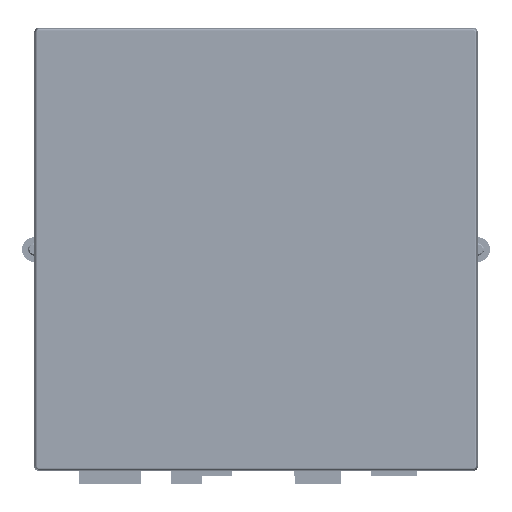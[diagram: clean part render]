
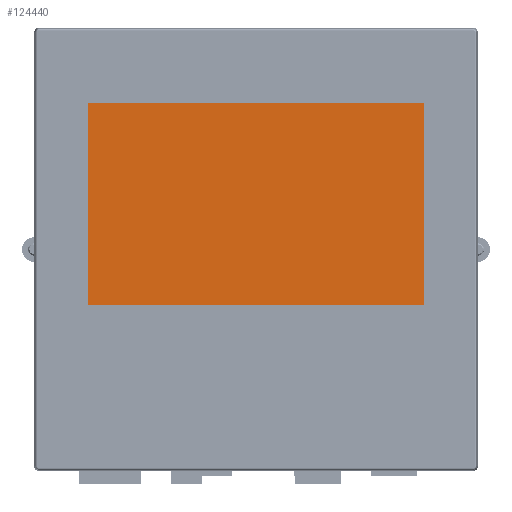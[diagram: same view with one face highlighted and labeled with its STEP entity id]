
A CAD part, top view. The second image highlights one B-rep face of the part: STEP entity #124440.
In plain terms, the highlighted planar face has unit normal (0, 0, 1).
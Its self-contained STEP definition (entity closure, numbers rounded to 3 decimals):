
#8565 = CARTESIAN_POINT ( 'NONE',  ( 45.027, 56.33, 149. ) ) ;
#48593 = PLANE ( 'NONE',  #112244 ) ;
#59693 = VECTOR ( 'NONE', #227955, 1000. ) ;
#79992 = ORIENTED_EDGE ( 'NONE', *, *, #145507, .T. ) ;
#83156 = CARTESIAN_POINT ( 'NONE',  ( -64.149, -9.411, 149. ) ) ;
#89838 = CARTESIAN_POINT ( 'NONE',  ( -64.149, 56.33, 149. ) ) ;
#102635 = DIRECTION ( 'NONE',  ( 0., -1., 0. ) ) ;
#112163 = DIRECTION ( 'NONE',  ( 0., 0., 1. ) ) ;
#112244 = AXIS2_PLACEMENT_3D ( 'NONE', #297525, #112163, #328696 ) ;
#124440 = ADVANCED_FACE ( 'NONE', ( #162298 ), #48593, .T. ) ;
#129568 = ORIENTED_EDGE ( 'NONE', *, *, #357609, .T. ) ;
#135228 = CARTESIAN_POINT ( 'NONE',  ( -64.149, 56.33, 149. ) ) ;
#142845 = ORIENTED_EDGE ( 'NONE', *, *, #220172, .T. ) ;
#143714 = LINE ( 'NONE', #135228, #298479 ) ;
#145507 = EDGE_CURVE ( 'NONE', #151668, #307523, #143714, .T. ) ;
#151668 = VERTEX_POINT ( 'NONE', #209750 ) ;
#162298 = FACE_OUTER_BOUND ( 'NONE', #389716, .T. ) ;
#172750 = VECTOR ( 'NONE', #194104, 1000. ) ;
#194104 = DIRECTION ( 'NONE',  ( 0., 1., 0. ) ) ;
#204627 = LINE ( 'NONE', #89838, #359404 ) ;
#209750 = CARTESIAN_POINT ( 'NONE',  ( -64.149, 56.33, 149. ) ) ;
#214395 = DIRECTION ( 'NONE',  ( -1., 0., 0. ) ) ;
#220172 = EDGE_CURVE ( 'NONE', #282784, #395375, #264636, .T. ) ;
#225568 = CARTESIAN_POINT ( 'NONE',  ( 45.027, -9.411, 149. ) ) ;
#227955 = DIRECTION ( 'NONE',  ( 1., 0., 0. ) ) ;
#244378 = EDGE_CURVE ( 'NONE', #395375, #151668, #204627, .T. ) ;
#264636 = LINE ( 'NONE', #8565, #172750 ) ;
#282784 = VERTEX_POINT ( 'NONE', #225568 ) ;
#289961 = CARTESIAN_POINT ( 'NONE',  ( -64.149, -9.411, 149. ) ) ;
#297525 = CARTESIAN_POINT ( 'NONE',  ( -9.526, 8.731, 149. ) ) ;
#298479 = VECTOR ( 'NONE', #102635, 1000. ) ;
#306605 = LINE ( 'NONE', #289961, #59693 ) ;
#307523 = VERTEX_POINT ( 'NONE', #83156 ) ;
#325270 = CARTESIAN_POINT ( 'NONE',  ( 45.027, 56.33, 149. ) ) ;
#328696 = DIRECTION ( 'NONE',  ( 1., 0., 0. ) ) ;
#357609 = EDGE_CURVE ( 'NONE', #307523, #282784, #306605, .T. ) ;
#359404 = VECTOR ( 'NONE', #214395, 1000. ) ;
#389716 = EDGE_LOOP ( 'NONE', ( #79992, #129568, #142845, #398725 ) ) ;
#395375 = VERTEX_POINT ( 'NONE', #325270 ) ;
#398725 = ORIENTED_EDGE ( 'NONE', *, *, #244378, .T. ) ;
